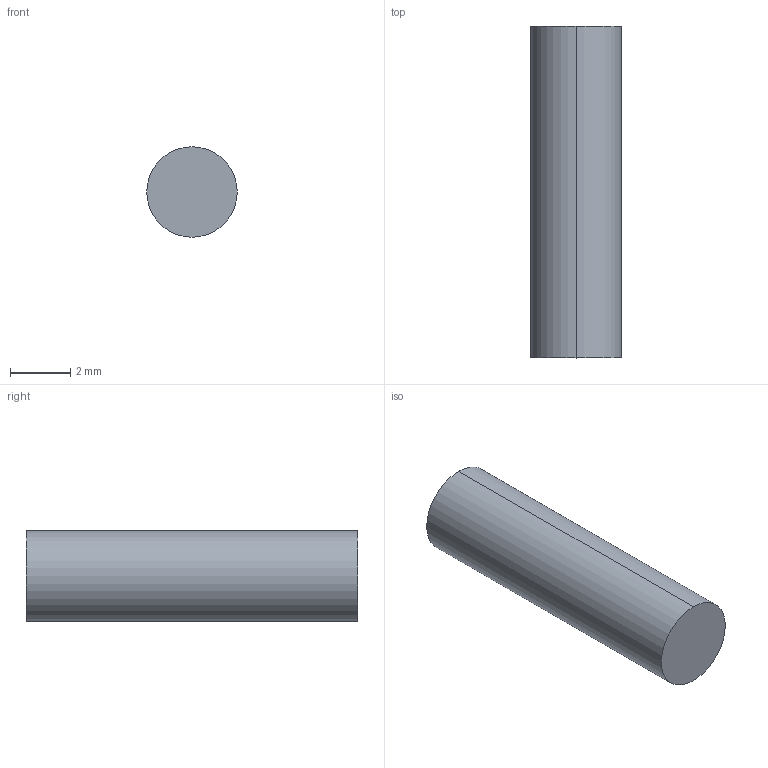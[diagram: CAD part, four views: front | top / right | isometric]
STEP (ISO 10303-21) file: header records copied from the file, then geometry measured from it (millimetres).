
FILE_DESCRIPTION (( 'STEP AP214' ), '1' );
FILE_NAME ('P-01011 - Snap Ring Hinge Pin - v2.1.2_Straight Pin - Crimp.STEP', '2026-06-12T21:56:53', ( '' ), ( '' ), 'SwSTEP 2.0', 'SolidWorks 2023', '' );
FILE_SCHEMA (( 'AUTOMOTIVE_DESIGN' ));
Length unit declared in the file: inch
Products named in the file (1): P-01011 - Snap Ring Hinge Pin - v2.1.2_Straight Pin - Crimp
Bounding box: 3 x 11 x 3 mm (x, y, z)
Volume: 77.8 mm3; surface area: 117.8 mm2
Topology: 1 solids, 1 shells, 4 faces, 6 edges, 4 vertices
Faces by surface type: plane 2, cylinder 2
Entity records: 121 total; most frequent: DIRECTION 20, CARTESIAN_POINT 15, ORIENTED_EDGE 12, AXIS2_PLACEMENT_3D 9, EDGE_CURVE 6, CIRCLE 4, FACE_OUTER_BOUND 4, ADVANCED_FACE 4
